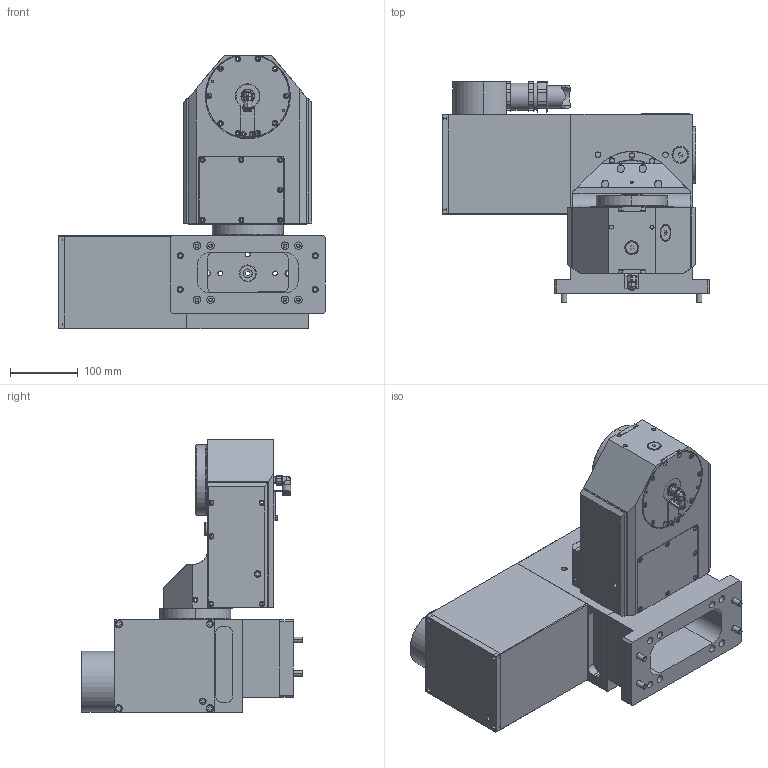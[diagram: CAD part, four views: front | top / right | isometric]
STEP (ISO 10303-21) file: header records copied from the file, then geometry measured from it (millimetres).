
FILE_DESCRIPTION (( 'STEP AP203' ), '1' );
FILE_NAME ('2505739 SAT100-23.STEP', '2020-12-05T05:55:40', ( '' ), ( '' ), 'SwSTEP 2.0', 'SolidWorks 2019', '' );
FILE_SCHEMA (( 'CONFIG_CONTROL_DESIGN' ));
Length unit declared in the file: millimetre
Products named in the file (1): 2505739 SAT100-23
Bounding box: 395 x 328 x 405 mm (x, y, z)
Surface area: 724475.6 mm2 (no closed solid volume)
Topology: 0 solids, 188 shells, 1304 faces, 5287 edges, 4164 vertices
Faces by surface type: plane 682, cylinder 400, cone 173, torus 44, bspline 3, sphere 2
Entity records: 60903 total; most frequent: CARTESIAN_POINT 17547, DIRECTION 8769, ORIENTED_EDGE 7593, EDGE_CURVE 5273, VERTEX_POINT 4164, LINE 3043, VECTOR 3043, AXIS2_PLACEMENT_3D 2863
